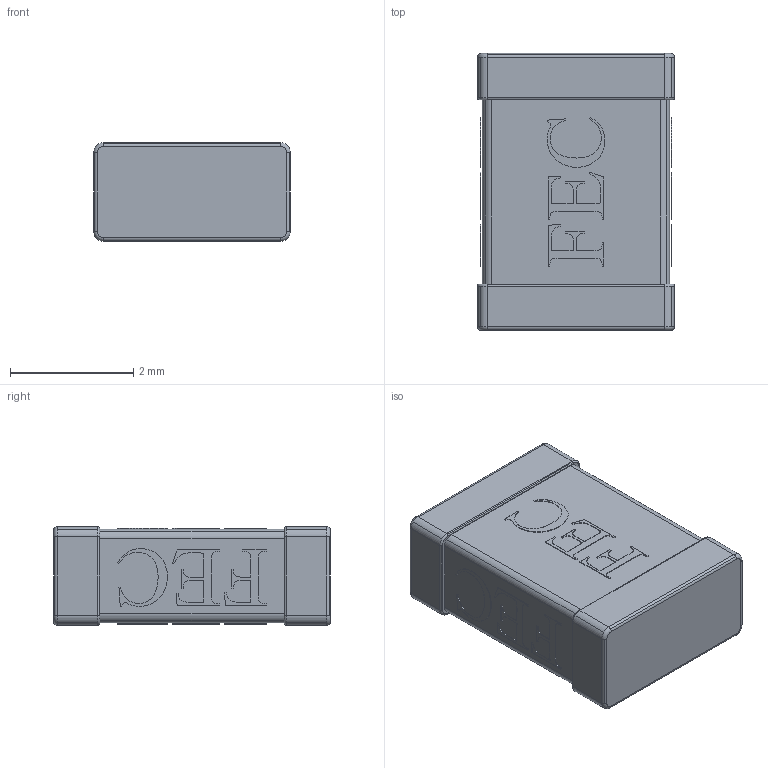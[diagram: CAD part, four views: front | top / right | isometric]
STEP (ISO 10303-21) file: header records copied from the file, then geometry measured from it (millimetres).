
FILE_DESCRIPTION(('STEP AP214'),'1');
FILE_NAME('tmp0.step','2023-08-07T01:10:36',(' '),(' '),'Spatial InterOp 3D',' ',' ');
FILE_SCHEMA(('AUTOMOTIVE_DESIGN { 1 0 10303 214 1 1 1 1 }'));
Length unit declared in the file: millimetre
Products named in the file (1): 1
Bounding box: 3.2 x 4.5 x 1.6 mm (x, y, z)
Volume: 21.5 mm3; surface area: 74.7 mm2
Topology: 15 solids, 15 shells, 1102 faces, 3184 edges, 2112 vertices
Faces by surface type: plane 1030, cylinder 56, torus 16
Entity records: 35714 total; most frequent: CARTESIAN_POINT 6413, ORIENTED_EDGE 6368, DIRECTION 5546, EDGE_CURVE 3184, LINE 3056, VECTOR 3056, VERTEX_POINT 2112, AXIS2_PLACEMENT_3D 1245
